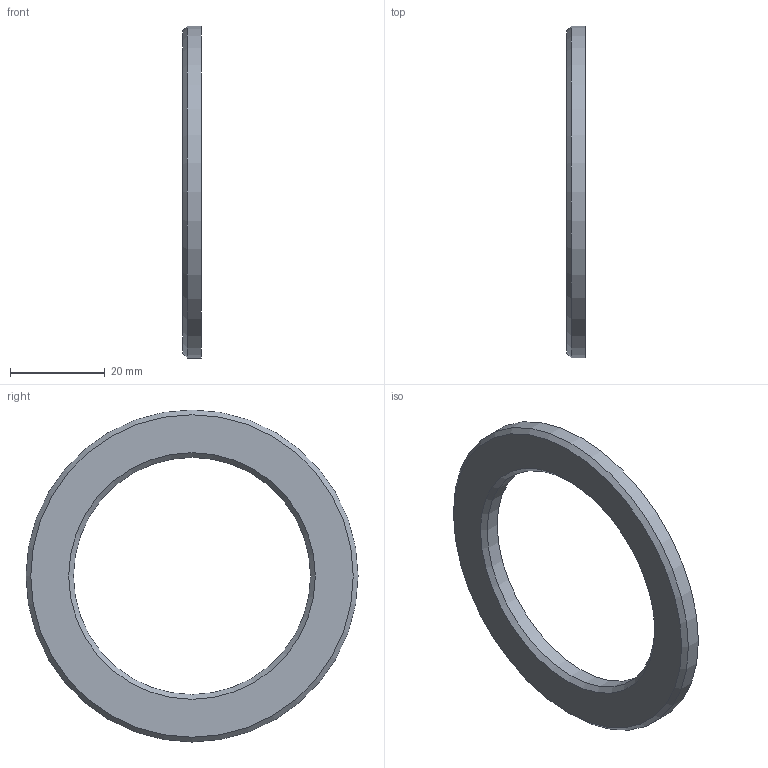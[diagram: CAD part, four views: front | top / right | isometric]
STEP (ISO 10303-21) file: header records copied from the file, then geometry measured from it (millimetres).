
FILE_DESCRIPTION(/* description */ (''),/* implementation_level */ '2;1');
FILE_NAME(/* name */ 'I:\Katalóg ihlovích ložísk\AXK---\LS--\LS5070.stp',/* time_stamp */ '2016-12-13T08:28:54+01:00',/* author */ ('OUBALASKO'),/* organization */ (''),/* preprocessor_version */ 'ST-DEVELOPER v15.6',/* originating_system */ 'Autodesk Inventor 2015',/* authorisation */ '');
FILE_SCHEMA (('AUTOMOTIVE_DESIGN { 1 0 10303 214 3 1 1 }'));
Length unit declared in the file: millimetre
Products named in the file (1): LS5070
Bounding box: 4 x 70 x 70 mm (x, y, z)
Volume: 7351.3 mm3; surface area: 5057 mm2
Topology: 1 solids, 1 shells, 6 faces, 10 edges, 6 vertices
Faces by surface type: cone 2, plane 2, cylinder 2
Full cylindrical faces by diameter (mm): 50 x1, 70 x1
Entity records: 152 total; most frequent: DIRECTION 26, CARTESIAN_POINT 19, AXIS2_PLACEMENT_3D 13, EDGE_LOOP 12, ORIENTED_EDGE 12, FACE_BOUND 6, FACE_OUTER_BOUND 6, CIRCLE 6
